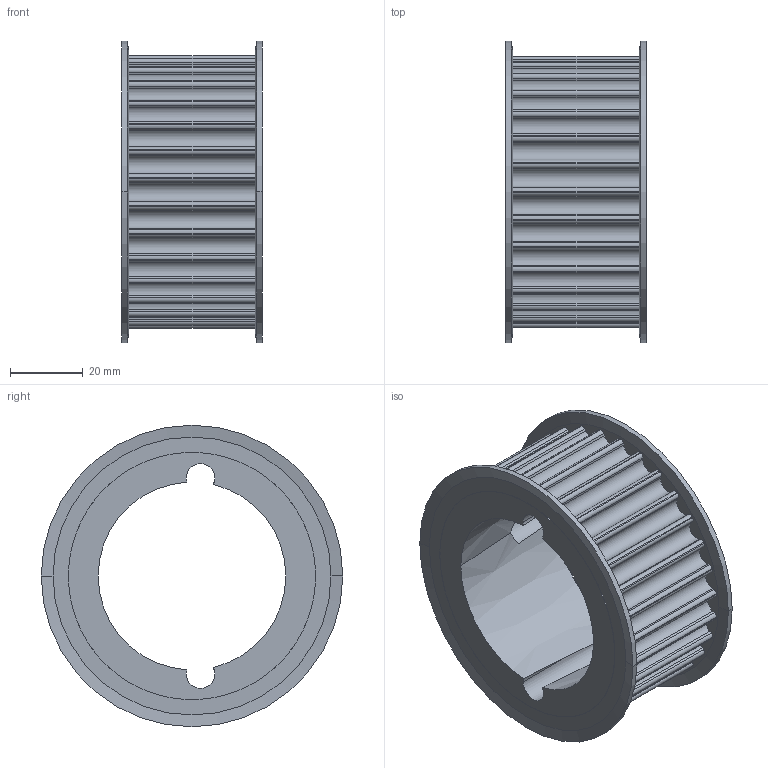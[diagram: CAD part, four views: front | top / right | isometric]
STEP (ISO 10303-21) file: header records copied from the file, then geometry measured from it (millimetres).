
FILE_DESCRIPTION( ( '' ), '1' );
FILE_NAME( 'C:/Users/Stangenbergd/Documents/CAD_Step/1/17477215.stp', '2021-10-19T10:18:07', ( '' ), ( '' ), ' ', ' ', ' ' );
FILE_SCHEMA( ( 'CONFIG_CONTROL_DESIGN' ) );
Length unit declared in the file: millimetre
Products named in the file (1): 1
Bounding box: 38.61 x 83 x 83 mm (x, y, z)
Volume: 63422.2 mm3; surface area: 28962.4 mm2
Topology: 1 solids, 1 shells, 336 faces, 1220 edges, 770 vertices
Faces by surface type: cylinder 256, plane 66, cone 14
Entity records: 13592 total; most frequent: DIRECTION 2526, CARTESIAN_POINT 2467, ORIENTED_EDGE 2440, EDGE_CURVE 1220, AXIS2_PLACEMENT_3D 981, VERTEX_POINT 770, CIRCLE 644, LINE 564
